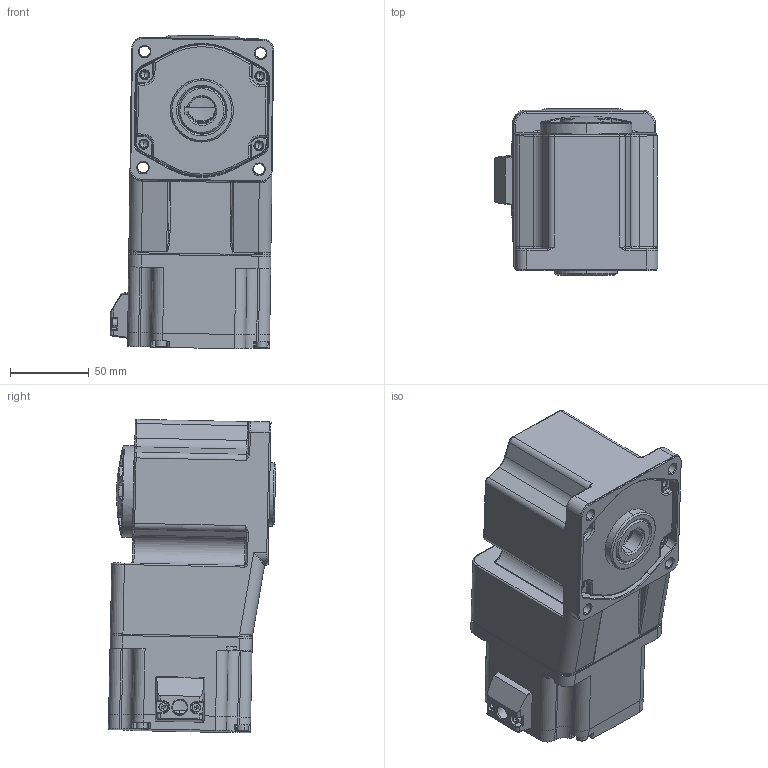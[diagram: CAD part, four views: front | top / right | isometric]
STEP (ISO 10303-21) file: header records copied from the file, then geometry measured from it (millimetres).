
FILE_DESCRIPTION((''),'2;1');
FILE_NAME('90LC__ASM','2019-04-25T',('Administrator'),(''),'PRO/ENGINEER BY PARAMETRIC TECHNOLOGY CORPORATION, 2008380','PRO/ENGINEER BY PARAMETRIC TECHNOLOGY CORPORATION, 2008380','');
FILE_SCHEMA(('CONFIG_CONTROL_DESIGN'));
Length unit declared in the file: millimetre
Products named in the file (15): Z5BLD______; Z5BLD____; M4____; PRODUCT_34299; M3____; 90___________ASM; 90LC_________ASM; _90LC____; BREP_WITH_VOIDS_95; MANIFOLD_SOLID_BREP_1022; MANIFOLD_SOLID_BREP_1026; MANIFOLD_SOLID_BREP_1028; ADMI1C15WF3F_ASM; 5IK40RGU-C_5GU3K_180K_RC_ASM; 90LC__ASM
Assembly tree (18 placements, depth 4):
  90LC__ASM
    90LC_________ASM
      90___________ASM
        Z5BLD______
        Z5BLD____
        M4____  x4
        PRODUCT_34299
        M3____  x2
    _90LC____
    5IK40RGU-C_5GU3K_180K_RC_ASM
      ADMI1C15WF3F_ASM
        BREP_WITH_VOIDS_95
        MANIFOLD_SOLID_BREP_1022
        MANIFOLD_SOLID_BREP_1026
        MANIFOLD_SOLID_BREP_1028
Bounding box: 103.53 x 106.03 x 198.46 mm (x, y, z)
Volume: 887316.6 mm3; surface area: 219200.4 mm2
Topology: 13 solids, 15 shells, 1954 faces, 5052 edges, 3071 vertices
Faces by surface type: cylinder 620, plane 435, torus 335, cone 264, bspline 170, sphere 130
Entity records: 74608 total; most frequent: CARTESIAN_POINT 28420, DIRECTION 10257, ORIENTED_EDGE 9544, EDGE_CURVE 4772, AXIS2_PLACEMENT_3D 4336, VERTEX_POINT 2978, CIRCLE 2588, EDGE_LOOP 1978
